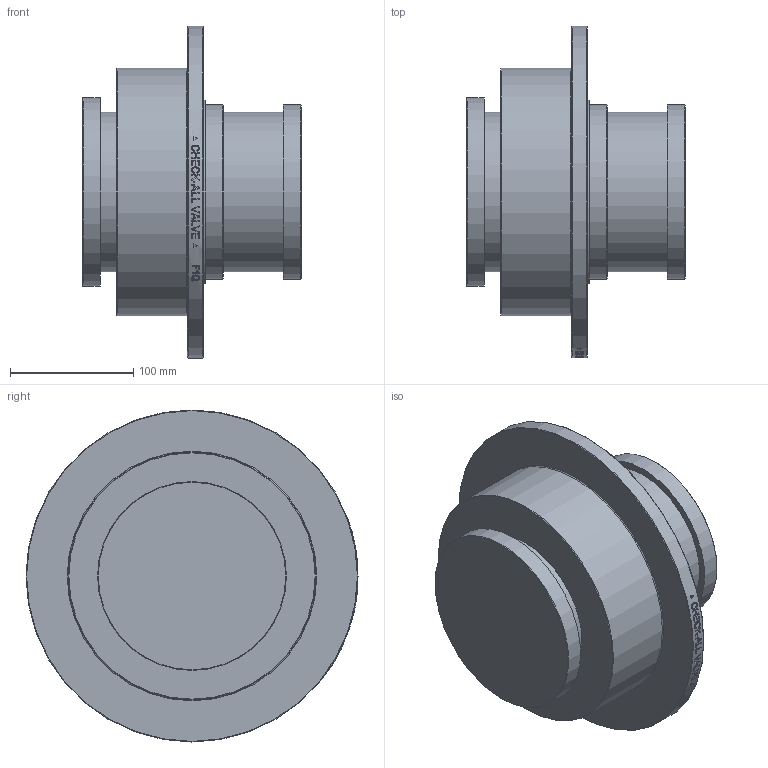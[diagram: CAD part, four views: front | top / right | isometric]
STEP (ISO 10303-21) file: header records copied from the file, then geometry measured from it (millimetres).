
FILE_DESCRIPTION( ( 'Unknown' ), '1' );
FILE_NAME( 'Y:/ENGR/3D Solid Edge Models/F1/F1 STEP/F1Q.stp', 'Unknown', ( 'Unknown' ), ( 'Unknown' ), 'PSStep 14.0', 'Unknown', ' ' );
FILE_SCHEMA( ( 'AUTOMOTIVE_DESIGN { 1 0 10303 214 1 1 1 1 }' ) );
Length unit declared in the file: millimetre
Products named in the file (1): 1
Bounding box: 177.57 x 269.88 x 269.88 mm (x, y, z)
Volume: 4139736 mm3; surface area: 221642.4 mm2
Topology: 1 solids, 1 shells, 215 faces, 539 edges, 357 vertices
Faces by surface type: plane 125, bspline 51, cylinder 31, torus 5, cone 3
Full cylindrical faces by diameter (mm): 129.794 x2, 141.605 x2, 153.416 x1, 201.27 x1, 269.875 x1
Entity records: 10666 total; most frequent: CARTESIAN_POINT 4957, ORIENTED_EDGE 1048, EDGE_CURVE 524, B_SPLINE_CURVE_WITH_KNOTS 501, DIRECTION 376, VERTEX_POINT 357, EDGE_LOOP 261, FACE_OUTER_BOUND 227
